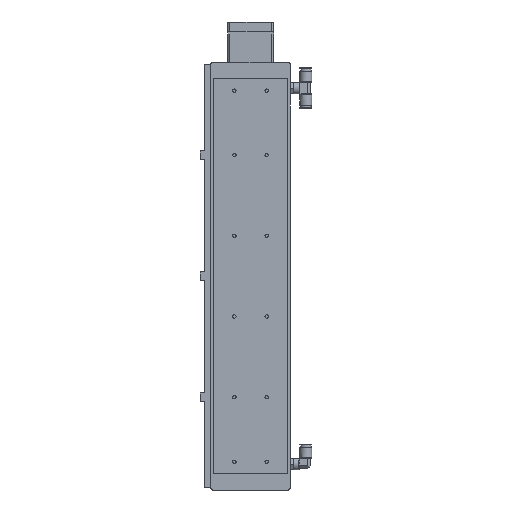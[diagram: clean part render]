
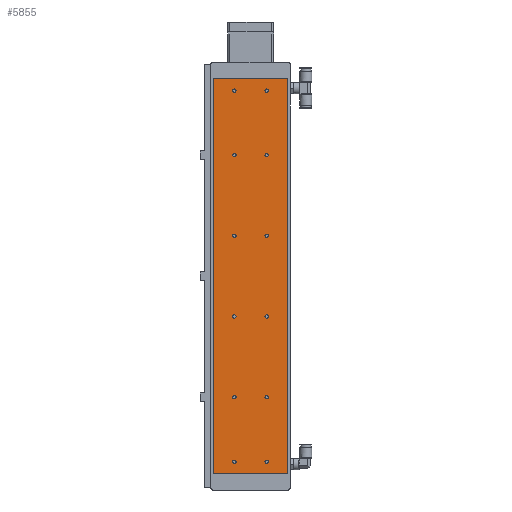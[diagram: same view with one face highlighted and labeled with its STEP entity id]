
A CAD part, front view. The second image highlights one B-rep face of the part: STEP entity #5855.
In plain terms, the highlighted planar face has unit normal (0, -1, 0).
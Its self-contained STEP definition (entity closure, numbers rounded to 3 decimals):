
#4675=CARTESIAN_POINT('',(22.067,0.0,35.));
#4676=VERTEX_POINT('',#4675);
#4677=CARTESIAN_POINT('',(20.,0.0,35.));
#4678=DIRECTION('',(0.0,1.0,0.0));
#4679=DIRECTION('',(1.0,0.0,0.0));
#4680=AXIS2_PLACEMENT_3D('',#4677,#4678,#4679);
#4681=CIRCLE('',#4680,2.067);
#4682=EDGE_CURVE('',#4676,#4676,#4681,.T.);
#4733=CARTESIAN_POINT('',(-17.933,0.0,35.));
#4734=VERTEX_POINT('',#4733);
#4735=CARTESIAN_POINT('',(-20.,0.0,35.));
#4736=DIRECTION('',(0.0,1.0,0.0));
#4737=DIRECTION('',(1.0,0.0,0.0));
#4738=AXIS2_PLACEMENT_3D('',#4735,#4736,#4737);
#4739=CIRCLE('',#4738,2.067);
#4740=EDGE_CURVE('',#4734,#4734,#4739,.T.);
#4791=CARTESIAN_POINT('',(22.067,0.0,495.0));
#4792=VERTEX_POINT('',#4791);
#4793=CARTESIAN_POINT('',(20.,0.0,495.0));
#4794=DIRECTION('',(0.0,1.0,0.0));
#4795=DIRECTION('',(1.0,0.0,0.0));
#4796=AXIS2_PLACEMENT_3D('',#4793,#4794,#4795);
#4797=CIRCLE('',#4796,2.067);
#4798=EDGE_CURVE('',#4792,#4792,#4797,.T.);
#4849=CARTESIAN_POINT('',(-17.933,0.0,495.0));
#4850=VERTEX_POINT('',#4849);
#4851=CARTESIAN_POINT('',(-20.,0.0,495.0));
#4852=DIRECTION('',(0.0,1.0,0.0));
#4853=DIRECTION('',(1.0,0.0,0.0));
#4854=AXIS2_PLACEMENT_3D('',#4851,#4852,#4853);
#4855=CIRCLE('',#4854,2.067);
#4856=EDGE_CURVE('',#4850,#4850,#4855,.T.);
#4907=CARTESIAN_POINT('',(-17.933,0.0,115.));
#4908=VERTEX_POINT('',#4907);
#4909=CARTESIAN_POINT('',(-20.,0.0,115.));
#4910=DIRECTION('',(0.0,1.0,0.0));
#4911=DIRECTION('',(1.0,0.0,0.0));
#4912=AXIS2_PLACEMENT_3D('',#4909,#4910,#4911);
#4913=CIRCLE('',#4912,2.067);
#4914=EDGE_CURVE('',#4908,#4908,#4913,.T.);
#4965=CARTESIAN_POINT('',(22.067,0.0,115.));
#4966=VERTEX_POINT('',#4965);
#4967=CARTESIAN_POINT('',(20.,0.0,115.));
#4968=DIRECTION('',(0.0,1.0,0.0));
#4969=DIRECTION('',(1.0,0.0,0.0));
#4970=AXIS2_PLACEMENT_3D('',#4967,#4968,#4969);
#4971=CIRCLE('',#4970,2.067);
#4972=EDGE_CURVE('',#4966,#4966,#4971,.T.);
#5023=CARTESIAN_POINT('',(-17.933,0.0,415.0));
#5024=VERTEX_POINT('',#5023);
#5025=CARTESIAN_POINT('',(-20.,0.0,415.0));
#5026=DIRECTION('',(0.0,1.0,0.0));
#5027=DIRECTION('',(1.0,0.0,0.0));
#5028=AXIS2_PLACEMENT_3D('',#5025,#5026,#5027);
#5029=CIRCLE('',#5028,2.067);
#5030=EDGE_CURVE('',#5024,#5024,#5029,.T.);
#5081=CARTESIAN_POINT('',(22.067,0.0,415.0));
#5082=VERTEX_POINT('',#5081);
#5083=CARTESIAN_POINT('',(20.,0.0,415.0));
#5084=DIRECTION('',(0.0,1.0,0.0));
#5085=DIRECTION('',(1.0,0.0,0.0));
#5086=AXIS2_PLACEMENT_3D('',#5083,#5084,#5085);
#5087=CIRCLE('',#5086,2.067);
#5088=EDGE_CURVE('',#5082,#5082,#5087,.T.);
#5139=CARTESIAN_POINT('',(-17.933,0.0,315.0));
#5140=VERTEX_POINT('',#5139);
#5141=CARTESIAN_POINT('',(-20.,0.0,315.0));
#5142=DIRECTION('',(0.0,1.0,0.0));
#5143=DIRECTION('',(1.0,0.0,0.0));
#5144=AXIS2_PLACEMENT_3D('',#5141,#5142,#5143);
#5145=CIRCLE('',#5144,2.067);
#5146=EDGE_CURVE('',#5140,#5140,#5145,.T.);
#5197=CARTESIAN_POINT('',(-17.933,0.0,215.0));
#5198=VERTEX_POINT('',#5197);
#5199=CARTESIAN_POINT('',(-20.0,0.0,215.0));
#5200=DIRECTION('',(0.0,1.0,0.0));
#5201=DIRECTION('',(1.0,0.0,0.0));
#5202=AXIS2_PLACEMENT_3D('',#5199,#5200,#5201);
#5203=CIRCLE('',#5202,2.067);
#5204=EDGE_CURVE('',#5198,#5198,#5203,.T.);
#5255=CARTESIAN_POINT('',(22.067,0.0,215.0));
#5256=VERTEX_POINT('',#5255);
#5257=CARTESIAN_POINT('',(20.,0.0,215.0));
#5258=DIRECTION('',(0.0,1.0,0.0));
#5259=DIRECTION('',(1.0,0.0,0.0));
#5260=AXIS2_PLACEMENT_3D('',#5257,#5258,#5259);
#5261=CIRCLE('',#5260,2.067);
#5262=EDGE_CURVE('',#5256,#5256,#5261,.T.);
#5313=CARTESIAN_POINT('',(22.067,0.0,315.0));
#5314=VERTEX_POINT('',#5313);
#5315=CARTESIAN_POINT('',(20.,0.0,315.0));
#5316=DIRECTION('',(0.0,1.0,0.0));
#5317=DIRECTION('',(1.0,0.0,0.0));
#5318=AXIS2_PLACEMENT_3D('',#5315,#5316,#5317);
#5319=CIRCLE('',#5318,2.067);
#5320=EDGE_CURVE('',#5314,#5314,#5319,.T.);
#5730=CARTESIAN_POINT('',(46.,0.0,20.));
#5731=VERTEX_POINT('',#5730);
#5738=CARTESIAN_POINT('',(-46.,0.0,20.));
#5739=VERTEX_POINT('',#5738);
#5740=CARTESIAN_POINT('',(-46.,0.0,20.));
#5741=DIRECTION('',(1.0,0.0,0.0));
#5742=VECTOR('',#5741,92.);
#5743=LINE('',#5740,#5742);
#5744=EDGE_CURVE('',#5739,#5731,#5743,.T.);
#5761=CARTESIAN_POINT('',(-46.,0.0,510.0));
#5762=VERTEX_POINT('',#5761);
#5769=CARTESIAN_POINT('',(46.,0.0,510.0));
#5770=VERTEX_POINT('',#5769);
#5771=CARTESIAN_POINT('',(46.,0.0,510.0));
#5772=DIRECTION('',(-1.0,0.0,0.0));
#5773=VECTOR('',#5772,92.);
#5774=LINE('',#5771,#5773);
#5775=EDGE_CURVE('',#5770,#5762,#5774,.T.);
#5792=CARTESIAN_POINT('',(-46.,0.0,20.));
#5793=DIRECTION('',(0.0,0.0,1.0));
#5794=VECTOR('',#5793,490.0);
#5795=LINE('',#5792,#5794);
#5796=EDGE_CURVE('',#5739,#5762,#5795,.T.);
#5803=CARTESIAN_POINT('',(46.,0.0,0.0));
#5804=DIRECTION('',(0.0,-1.0,0.0));
#5805=DIRECTION('',(0.0,0.0,-1.0));
#5806=AXIS2_PLACEMENT_3D('',#5803,#5804,#5805);
#5807=PLANE('',#5806);
#5808=ORIENTED_EDGE('',*,*,#5744,.T.);
#5809=CARTESIAN_POINT('',(46.,0.0,20.));
#5810=DIRECTION('',(0.0,0.0,1.0));
#5811=VECTOR('',#5810,490.0);
#5812=LINE('',#5809,#5811);
#5813=EDGE_CURVE('',#5731,#5770,#5812,.T.);
#5814=ORIENTED_EDGE('',*,*,#5813,.T.);
#5815=ORIENTED_EDGE('',*,*,#5775,.T.);
#5816=ORIENTED_EDGE('',*,*,#5796,.F.);
#5817=EDGE_LOOP('',(#5808,#5814,#5815,#5816));
#5818=FACE_OUTER_BOUND('',#5817,.T.);
#5819=ORIENTED_EDGE('',*,*,#4682,.T.);
#5820=EDGE_LOOP('',(#5819));
#5821=FACE_BOUND('',#5820,.T.);
#5822=ORIENTED_EDGE('',*,*,#4740,.T.);
#5823=EDGE_LOOP('',(#5822));
#5824=FACE_BOUND('',#5823,.T.);
#5825=ORIENTED_EDGE('',*,*,#4798,.T.);
#5826=EDGE_LOOP('',(#5825));
#5827=FACE_BOUND('',#5826,.T.);
#5828=ORIENTED_EDGE('',*,*,#4856,.T.);
#5829=EDGE_LOOP('',(#5828));
#5830=FACE_BOUND('',#5829,.T.);
#5831=ORIENTED_EDGE('',*,*,#4914,.T.);
#5832=EDGE_LOOP('',(#5831));
#5833=FACE_BOUND('',#5832,.T.);
#5834=ORIENTED_EDGE('',*,*,#4972,.T.);
#5835=EDGE_LOOP('',(#5834));
#5836=FACE_BOUND('',#5835,.T.);
#5837=ORIENTED_EDGE('',*,*,#5030,.T.);
#5838=EDGE_LOOP('',(#5837));
#5839=FACE_BOUND('',#5838,.T.);
#5840=ORIENTED_EDGE('',*,*,#5088,.T.);
#5841=EDGE_LOOP('',(#5840));
#5842=FACE_BOUND('',#5841,.T.);
#5843=ORIENTED_EDGE('',*,*,#5146,.T.);
#5844=EDGE_LOOP('',(#5843));
#5845=FACE_BOUND('',#5844,.T.);
#5846=ORIENTED_EDGE('',*,*,#5204,.T.);
#5847=EDGE_LOOP('',(#5846));
#5848=FACE_BOUND('',#5847,.T.);
#5849=ORIENTED_EDGE('',*,*,#5262,.T.);
#5850=EDGE_LOOP('',(#5849));
#5851=FACE_BOUND('',#5850,.T.);
#5852=ORIENTED_EDGE('',*,*,#5320,.T.);
#5853=EDGE_LOOP('',(#5852));
#5854=FACE_BOUND('',#5853,.T.);
#5855=ADVANCED_FACE('',(#5818,#5821,#5824,#5827,#5830,#5833,#5836,#5839,#5842,#5845,#5848,#5851,#5854),#5807,.T.);
